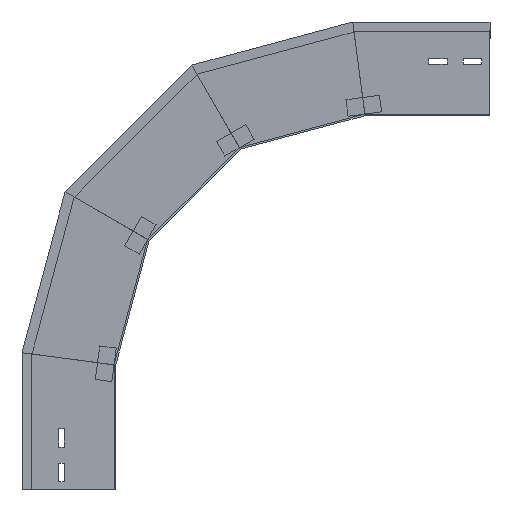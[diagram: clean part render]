
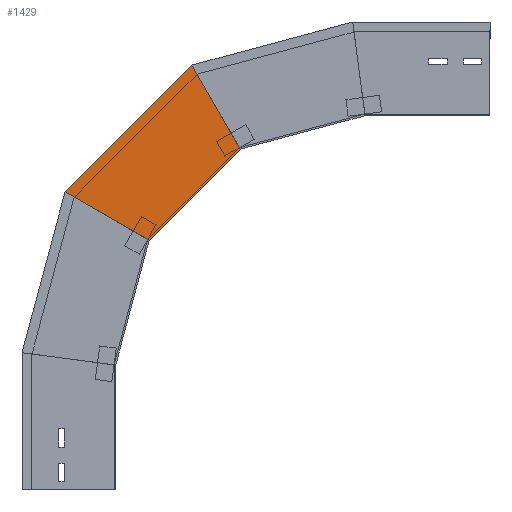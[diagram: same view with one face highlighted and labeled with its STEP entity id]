
A CAD part, left-side view. The second image highlights one B-rep face of the part: STEP entity #1429.
In plain terms, the highlighted planar face has unit normal (-1, 0, 0) as drawn and (1, 0, 0) by its records, which use the part's own axes.
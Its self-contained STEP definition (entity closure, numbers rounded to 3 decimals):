
#142 = LINE ( 'NONE', #1716, #1361 ) ;
#161 = EDGE_CURVE ( 'NONE', #836, #1795, #276, .T. ) ;
#166 = CARTESIAN_POINT ( 'NONE',  ( 0., -91.484, 510.185 ) ) ;
#233 = EDGE_CURVE ( 'NONE', #836, #1358, #1514, .T. ) ;
#276 = LINE ( 'NONE', #1657, #1118 ) ;
#464 = FACE_OUTER_BOUND ( 'NONE', #613, .T. ) ;
#491 = CARTESIAN_POINT ( 'NONE',  ( 0., -16.599, 276.201 ) ) ;
#507 = CARTESIAN_POINT ( 'NONE',  ( 0., -149.719, 409.32 ) ) ;
#560 = VERTEX_POINT ( 'NONE', #507 ) ;
#575 = ORIENTED_EDGE ( 'NONE', *, *, #1312, .T. ) ;
#613 = EDGE_LOOP ( 'NONE', ( #1825, #575, #1843, #1766 ) ) ;
#618 = PLANE ( 'NONE',  #640 ) ;
#628 = DIRECTION ( 'NONE',  ( 0., 0., -1. ) ) ;
#640 = AXIS2_PLACEMENT_3D ( 'NONE', #491, #911, #628 ) ;
#836 = VERTEX_POINT ( 'NONE', #1013 ) ;
#911 = DIRECTION ( 'NONE',  ( 1., 0., 0. ) ) ;
#1013 = CARTESIAN_POINT ( 'NONE',  ( 0., 60.748, 357.953 ) ) ;
#1040 = LINE ( 'NONE', #1185, #1822 ) ;
#1118 = VECTOR ( 'NONE', #1639, 1000. ) ;
#1185 = CARTESIAN_POINT ( 'NONE',  ( 0., -16.599, 276.201 ) ) ;
#1201 = VECTOR ( 'NONE', #1207, 1000. ) ;
#1207 = DIRECTION ( 'NONE',  ( 0., -0.707, 0.707 ) ) ;
#1312 = EDGE_CURVE ( 'NONE', #1358, #560, #142, .T. ) ;
#1358 = VERTEX_POINT ( 'NONE', #166 ) ;
#1361 = VECTOR ( 'NONE', #1755, 1000. ) ;
#1421 = CARTESIAN_POINT ( 'NONE',  ( 0., -40.117, 299.719 ) ) ;
#1429 = ADVANCED_FACE ( 'NONE', ( #464 ), #618, .T. ) ;
#1470 = EDGE_CURVE ( 'NONE', #1795, #560, #1040, .T. ) ;
#1495 = CARTESIAN_POINT ( 'NONE',  ( 0., 62.95, 355.751 ) ) ;
#1514 = LINE ( 'NONE', #1495, #1201 ) ;
#1639 = DIRECTION ( 'NONE',  ( 0., -0.866, -0.5 ) ) ;
#1657 = CARTESIAN_POINT ( 'NONE',  ( 0., -78.533, 277.539 ) ) ;
#1716 = CARTESIAN_POINT ( 'NONE',  ( 0., -174.081, 367.123 ) ) ;
#1755 = DIRECTION ( 'NONE',  ( 0., -0.5, -0.866 ) ) ;
#1765 = DIRECTION ( 'NONE',  ( 0., -0.707, 0.707 ) ) ;
#1766 = ORIENTED_EDGE ( 'NONE', *, *, #161, .F. ) ;
#1795 = VERTEX_POINT ( 'NONE', #1421 ) ;
#1822 = VECTOR ( 'NONE', #1765, 1000. ) ;
#1825 = ORIENTED_EDGE ( 'NONE', *, *, #233, .T. ) ;
#1843 = ORIENTED_EDGE ( 'NONE', *, *, #1470, .F. ) ;
